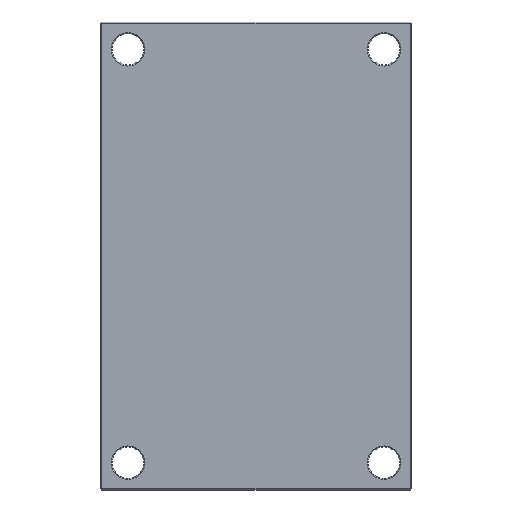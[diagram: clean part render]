
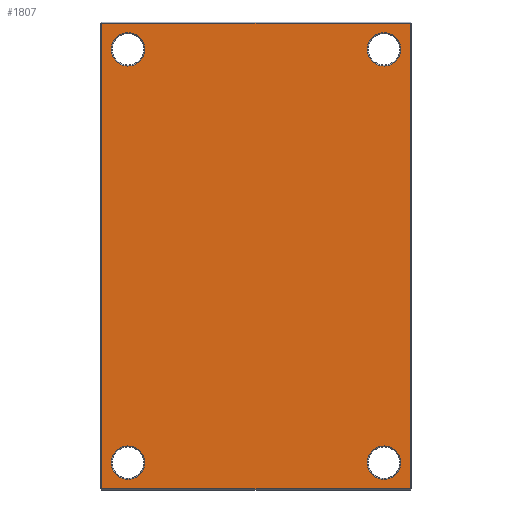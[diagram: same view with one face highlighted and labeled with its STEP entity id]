
A CAD part, front view. The second image highlights one B-rep face of the part: STEP entity #1807.
In plain terms, the highlighted planar face has unit normal (0, -1, 0).
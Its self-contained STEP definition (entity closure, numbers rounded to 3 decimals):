
#6 = CARTESIAN_POINT ( 'NONE',  ( -122., 0., -213. ) ) ;
#7 = DIRECTION ( 'NONE',  ( -1., 0., 0. ) ) ;
#42 = EDGE_LOOP ( 'NONE', ( #1162, #61 ) ) ;
#61 = ORIENTED_EDGE ( 'NONE', *, *, #392, .T. ) ;
#67 = FACE_BOUND ( 'NONE', #42, .T. ) ;
#73 = CIRCLE ( 'NONE', #321, 16. ) ;
#101 = CIRCLE ( 'NONE', #1719, 16. ) ;
#104 = CIRCLE ( 'NONE', #1712, 16. ) ;
#114 = DIRECTION ( 'NONE',  ( 0., 0., 1. ) ) ;
#127 = DIRECTION ( 'NONE',  ( 0., 1., 0. ) ) ;
#137 = EDGE_CURVE ( 'NONE', #695, #554, #682, .T. ) ;
#138 = VECTOR ( 'NONE', #180, 1000. ) ;
#146 = CARTESIAN_POINT ( 'NONE',  ( -122., 0., 197. ) ) ;
#161 = FACE_BOUND ( 'NONE', #352, .T. ) ;
#180 = DIRECTION ( 'NONE',  ( 1., 0., 0. ) ) ;
#181 = CIRCLE ( 'NONE', #1702, 16. ) ;
#182 = CARTESIAN_POINT ( 'NONE',  ( 122., 0., 213. ) ) ;
#183 = VECTOR ( 'NONE', #1864, 1000. ) ;
#214 = CIRCLE ( 'NONE', #437, 16. ) ;
#216 = LINE ( 'NONE', #764, #183 ) ;
#240 = CIRCLE ( 'NONE', #242, 16. ) ;
#242 = AXIS2_PLACEMENT_3D ( 'NONE', #1546, #1526, #1491 ) ;
#246 = EDGE_CURVE ( 'NONE', #1367, #695, #660, .T. ) ;
#315 = EDGE_CURVE ( 'NONE', #554, #1755, #383, .T. ) ;
#321 = AXIS2_PLACEMENT_3D ( 'NONE', #973, #962, #955 ) ;
#342 = ORIENTED_EDGE ( 'NONE', *, *, #1520, .T. ) ;
#348 = FACE_BOUND ( 'NONE', #1477, .T. ) ;
#352 = EDGE_LOOP ( 'NONE', ( #342, #963 ) ) ;
#370 = EDGE_CURVE ( 'NONE', #1755, #1367, #216, .T. ) ;
#373 = EDGE_CURVE ( 'NONE', #2173, #1604, #181, .T. ) ;
#380 = EDGE_CURVE ( 'NONE', #908, #1878, #454, .T. ) ;
#383 = LINE ( 'NONE', #2176, #138 ) ;
#389 = EDGE_CURVE ( 'NONE', #780, #1051, #104, .T. ) ;
#392 = EDGE_CURVE ( 'NONE', #2045, #1586, #101, .T. ) ;
#405 = EDGE_LOOP ( 'NONE', ( #940, #933, #1638, #649 ) ) ;
#437 = AXIS2_PLACEMENT_3D ( 'NONE', #146, #127, #114 ) ;
#454 = CIRCLE ( 'NONE', #1707, 16. ) ;
#480 = VECTOR ( 'NONE', #7, 1000. ) ;
#523 = EDGE_CURVE ( 'NONE', #1586, #2045, #1618, .T. ) ;
#554 = VERTEX_POINT ( 'NONE', #2077 ) ;
#649 = ORIENTED_EDGE ( 'NONE', *, *, #315, .T. ) ;
#660 = LINE ( 'NONE', #1987, #480 ) ;
#682 = LINE ( 'NONE', #1163, #727 ) ;
#695 = VERTEX_POINT ( 'NONE', #1102 ) ;
#727 = VECTOR ( 'NONE', #800, 1000. ) ;
#760 = CARTESIAN_POINT ( 'NONE',  ( 122., 0., 181. ) ) ;
#764 = CARTESIAN_POINT ( 'NONE',  ( 147., 0., 0. ) ) ;
#778 = DIRECTION ( 'NONE',  ( 0., 1., 0. ) ) ;
#780 = VERTEX_POINT ( 'NONE', #1893 ) ;
#794 = AXIS2_PLACEMENT_3D ( 'NONE', #1188, #1174, #810 ) ;
#800 = DIRECTION ( 'NONE',  ( 0., 0., -1. ) ) ;
#804 = ORIENTED_EDGE ( 'NONE', *, *, #1549, .T. ) ;
#810 = DIRECTION ( 'NONE',  ( 0., 0., 1. ) ) ;
#811 = FACE_BOUND ( 'NONE', #1458, .T. ) ;
#908 = VERTEX_POINT ( 'NONE', #929 ) ;
#929 = CARTESIAN_POINT ( 'NONE',  ( -122., 0., 213. ) ) ;
#933 = ORIENTED_EDGE ( 'NONE', *, *, #246, .T. ) ;
#940 = ORIENTED_EDGE ( 'NONE', *, *, #370, .T. ) ;
#955 = DIRECTION ( 'NONE',  ( 0., 0., 1. ) ) ;
#962 = DIRECTION ( 'NONE',  ( 0., 1., 0. ) ) ;
#963 = ORIENTED_EDGE ( 'NONE', *, *, #373, .T. ) ;
#973 = CARTESIAN_POINT ( 'NONE',  ( 122., 0., -197. ) ) ;
#984 = FACE_OUTER_BOUND ( 'NONE', #405, .T. ) ;
#1004 = CARTESIAN_POINT ( 'NONE',  ( 122., 0., -213. ) ) ;
#1051 = VERTEX_POINT ( 'NONE', #1004 ) ;
#1102 = CARTESIAN_POINT ( 'NONE',  ( -147., 0., 222. ) ) ;
#1162 = ORIENTED_EDGE ( 'NONE', *, *, #523, .T. ) ;
#1163 = CARTESIAN_POINT ( 'NONE',  ( -147., 0., 0. ) ) ;
#1174 = DIRECTION ( 'NONE',  ( 0., 1., 0. ) ) ;
#1188 = CARTESIAN_POINT ( 'NONE',  ( 0., 0., 0. ) ) ;
#1202 = CARTESIAN_POINT ( 'NONE',  ( -122., 0., -181. ) ) ;
#1314 = ORIENTED_EDGE ( 'NONE', *, *, #380, .T. ) ;
#1318 = ORIENTED_EDGE ( 'NONE', *, *, #389, .T. ) ;
#1340 = DIRECTION ( 'NONE',  ( 0., 1., 0. ) ) ;
#1350 = DIRECTION ( 'NONE',  ( 0., 0., 1. ) ) ;
#1359 = PLANE ( 'NONE',  #794 ) ;
#1367 = VERTEX_POINT ( 'NONE', #1866 ) ;
#1435 = ORIENTED_EDGE ( 'NONE', *, *, #1594, .T. ) ;
#1458 = EDGE_LOOP ( 'NONE', ( #804, #1318 ) ) ;
#1477 = EDGE_LOOP ( 'NONE', ( #1435, #1314 ) ) ;
#1483 = CARTESIAN_POINT ( 'NONE',  ( 147., 0., -222. ) ) ;
#1491 = DIRECTION ( 'NONE',  ( 0., 0., 1. ) ) ;
#1520 = EDGE_CURVE ( 'NONE', #1604, #2173, #240, .T. ) ;
#1526 = DIRECTION ( 'NONE',  ( 0., 1., 0. ) ) ;
#1527 = DIRECTION ( 'NONE',  ( 0., 1., 0. ) ) ;
#1546 = CARTESIAN_POINT ( 'NONE',  ( -122., 0., -197. ) ) ;
#1548 = CARTESIAN_POINT ( 'NONE',  ( -122., 0., 181. ) ) ;
#1549 = EDGE_CURVE ( 'NONE', #1051, #780, #73, .T. ) ;
#1586 = VERTEX_POINT ( 'NONE', #760 ) ;
#1594 = EDGE_CURVE ( 'NONE', #1878, #908, #214, .T. ) ;
#1604 = VERTEX_POINT ( 'NONE', #6 ) ;
#1618 = CIRCLE ( 'NONE', #1769, 16. ) ;
#1638 = ORIENTED_EDGE ( 'NONE', *, *, #137, .T. ) ;
#1671 = DIRECTION ( 'NONE',  ( 0., 0., 1. ) ) ;
#1702 = AXIS2_PLACEMENT_3D ( 'NONE', #1973, #1340, #1350 ) ;
#1703 = DIRECTION ( 'NONE',  ( 0., 0., 1. ) ) ;
#1707 = AXIS2_PLACEMENT_3D ( 'NONE', #1888, #1527, #1671 ) ;
#1712 = AXIS2_PLACEMENT_3D ( 'NONE', #1721, #1901, #1872 ) ;
#1719 = AXIS2_PLACEMENT_3D ( 'NONE', #2018, #778, #2130 ) ;
#1721 = CARTESIAN_POINT ( 'NONE',  ( 122., 0., -197. ) ) ;
#1734 = DIRECTION ( 'NONE',  ( 0., 1., 0. ) ) ;
#1739 = CARTESIAN_POINT ( 'NONE',  ( 122., 0., 197. ) ) ;
#1755 = VERTEX_POINT ( 'NONE', #1483 ) ;
#1769 = AXIS2_PLACEMENT_3D ( 'NONE', #1739, #1734, #1703 ) ;
#1807 = ADVANCED_FACE ( 'NONE', ( #161, #811, #67, #348, #984 ), #1359, .F. ) ;
#1864 = DIRECTION ( 'NONE',  ( 0., 0., 1. ) ) ;
#1866 = CARTESIAN_POINT ( 'NONE',  ( 147., 0., 222. ) ) ;
#1872 = DIRECTION ( 'NONE',  ( 0., 0., 1. ) ) ;
#1878 = VERTEX_POINT ( 'NONE', #1548 ) ;
#1888 = CARTESIAN_POINT ( 'NONE',  ( -122., 0., 197. ) ) ;
#1893 = CARTESIAN_POINT ( 'NONE',  ( 122., 0., -181. ) ) ;
#1901 = DIRECTION ( 'NONE',  ( 0., 1., 0. ) ) ;
#1973 = CARTESIAN_POINT ( 'NONE',  ( -122., 0., -197. ) ) ;
#1987 = CARTESIAN_POINT ( 'NONE',  ( 0., 0., 222. ) ) ;
#2018 = CARTESIAN_POINT ( 'NONE',  ( 122., 0., 197. ) ) ;
#2045 = VERTEX_POINT ( 'NONE', #182 ) ;
#2077 = CARTESIAN_POINT ( 'NONE',  ( -147., 0., -222. ) ) ;
#2130 = DIRECTION ( 'NONE',  ( 0., 0., 1. ) ) ;
#2173 = VERTEX_POINT ( 'NONE', #1202 ) ;
#2176 = CARTESIAN_POINT ( 'NONE',  ( 0., 0., -222. ) ) ;
